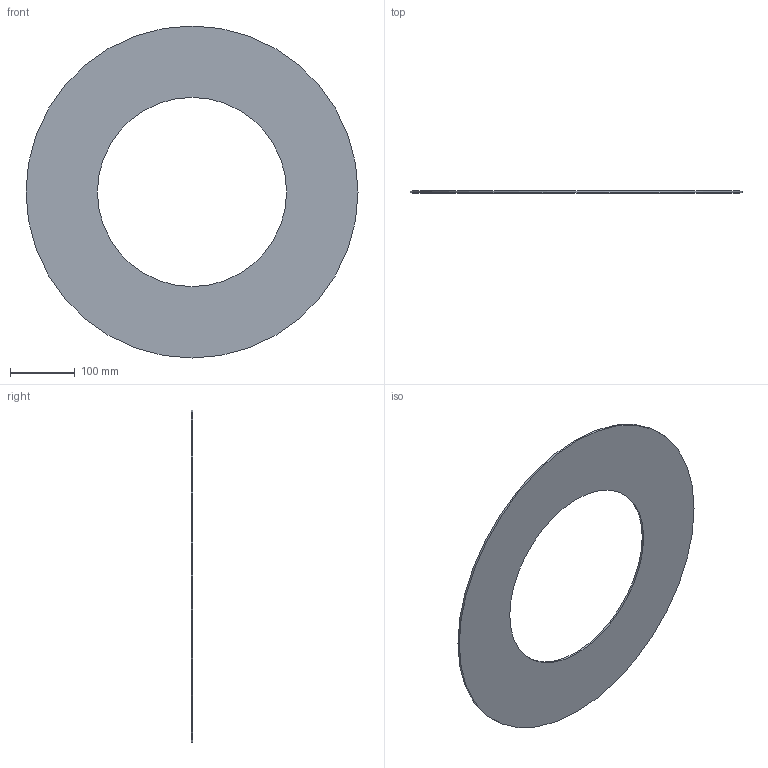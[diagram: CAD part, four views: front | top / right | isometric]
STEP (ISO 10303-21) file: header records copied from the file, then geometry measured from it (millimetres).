
FILE_DESCRIPTION(/* description */ ('Unknown'),/* implementation_level */ '2;1');
FILE_NAME(/* name */ 'GUA.400H',/* time_stamp */ '2021-04-01T15:07:26+02:00',/* author */ ('Unknown'),/* organization */ ('Unknown'),/* preprocessor_version */ 'ST-DEVELOPER v16.7',/* originating_system */ 'Solid Edge',/* authorisation */ 'Unknown');
FILE_SCHEMA (('AUTOMOTIVE_DESIGN {1 0 10303 214 3 1 1}'));
Length unit declared in the file: millimetre
Products named in the file (1): GUA.400H
Bounding box: 514 x 3 x 514 mm (x, y, z)
Volume: 420220.2 mm3; surface area: 287752.6 mm2
Topology: 1 solids, 1 shells, 4 faces, 6 edges, 4 vertices
Faces by surface type: cylinder 2, plane 2
Full cylindrical faces by diameter (mm): 293 x1, 514 x1
Entity records: 118 total; most frequent: DIRECTION 18, CARTESIAN_POINT 13, AXIS2_PLACEMENT_3D 9, ORIENTED_EDGE 8, EDGE_LOOP 8, FACE_BOUND 8, EDGE_CURVE 4, VERTEX_POINT 4
